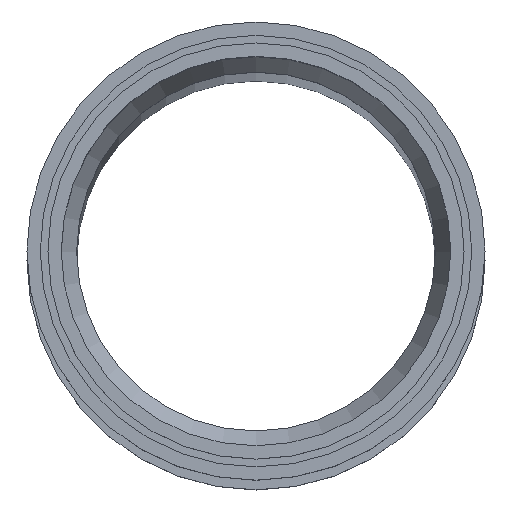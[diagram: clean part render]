
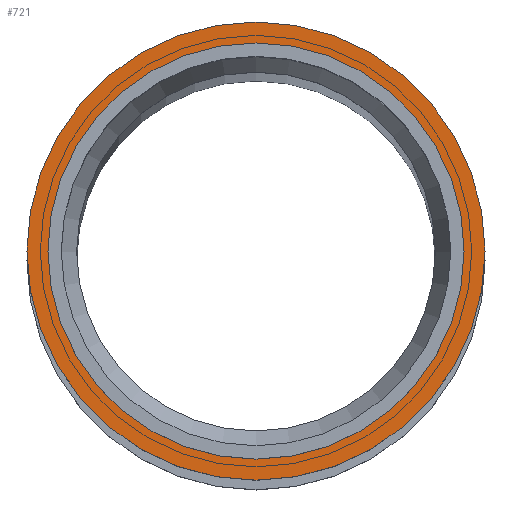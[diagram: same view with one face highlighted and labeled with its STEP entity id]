
A CAD part, top view. The second image highlights one B-rep face of the part: STEP entity #721.
In plain terms, the highlighted planar face has unit normal (0, 0, 1) as drawn and (1, 0, 0) by its records, which use the part's own axes.
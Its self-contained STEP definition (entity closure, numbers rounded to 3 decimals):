
#104=PLANE($,#801);
#131=FACE_BOUND($,#239,.T.);
#132=FACE_BOUND($,#240,.T.);
#239=EDGE_LOOP($,(#605));
#240=EDGE_LOOP($,(#606));
#288=CIRCLE($,#800,44.7);
#289=CIRCLE($,#802,40.6);
#358=VERTEX_POINT($,#1929);
#359=VERTEX_POINT($,#1932);
#444=EDGE_CURVE($,#358,#358,#288,.T.);
#445=EDGE_CURVE($,#359,#359,#289,.T.);
#605=ORIENTED_EDGE($,*,*,#445,.F.);
#606=ORIENTED_EDGE($,*,*,#444,.T.);
#721=ADVANCED_FACE($,(#131,#132),#104,.T.);
#800=AXIS2_PLACEMENT_3D($,#1930,#954,#955);
#801=AXIS2_PLACEMENT_3D($,#1931,#956,#957);
#802=AXIS2_PLACEMENT_3D($,#1933,#958,#959);
#954=DIRECTION('center_axis',(1.,0.,0.));
#955=DIRECTION('ref_axis',(0.,1.,0.));
#956=DIRECTION('center_axis',(1.,0.,0.));
#957=DIRECTION('ref_axis',(0.,0.,-1.));
#958=DIRECTION('center_axis',(1.,0.,0.));
#959=DIRECTION('ref_axis',(0.,1.,0.));
#1929=CARTESIAN_POINT('',(62.6,44.7,0.));
#1930=CARTESIAN_POINT('Origin',(62.6,0.,0.));
#1931=CARTESIAN_POINT('Origin',(62.6,42.65,0.));
#1932=CARTESIAN_POINT('',(62.6,40.6,0.));
#1933=CARTESIAN_POINT('Origin',(62.6,0.,0.));
